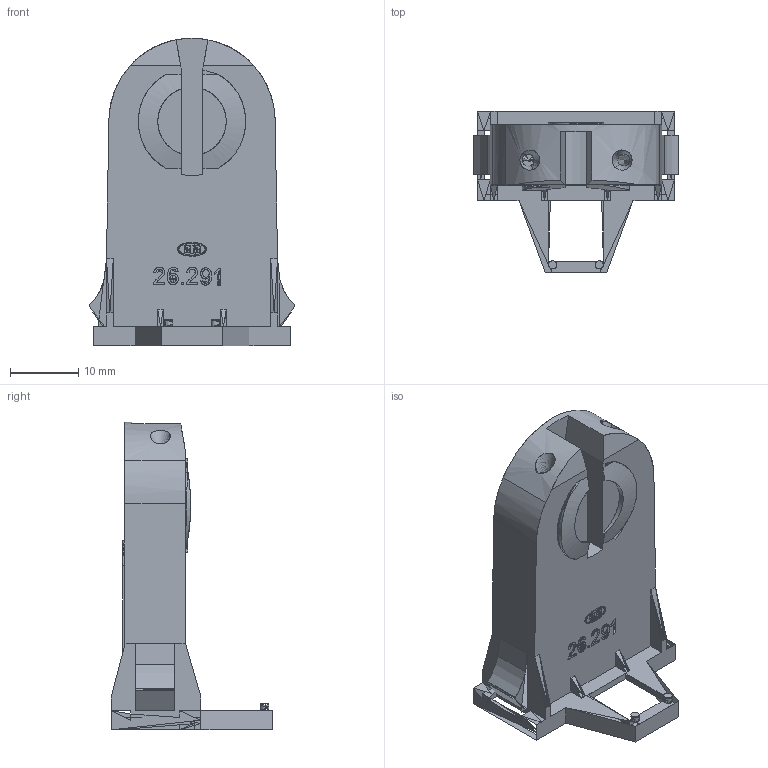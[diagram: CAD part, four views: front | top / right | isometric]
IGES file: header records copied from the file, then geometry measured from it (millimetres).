
Global section: file name: C:\Programme\CoreTechnologie\in\005-M0V-03.igs; native system: CT CoreTechnologie 3D Evolution; preprocessor: 2005; author: assmuth; date: 060912.102658; units: millimetre
Bounding box: 30 x 23.6 x 44.95 mm (x, y, z)
Surface area: 4759.3 mm2 (no closed solid volume)
Topology: 0 solids, 0 shells, 273 faces, 1373 edges, 1336 vertices
Faces by surface type: bspline 273
